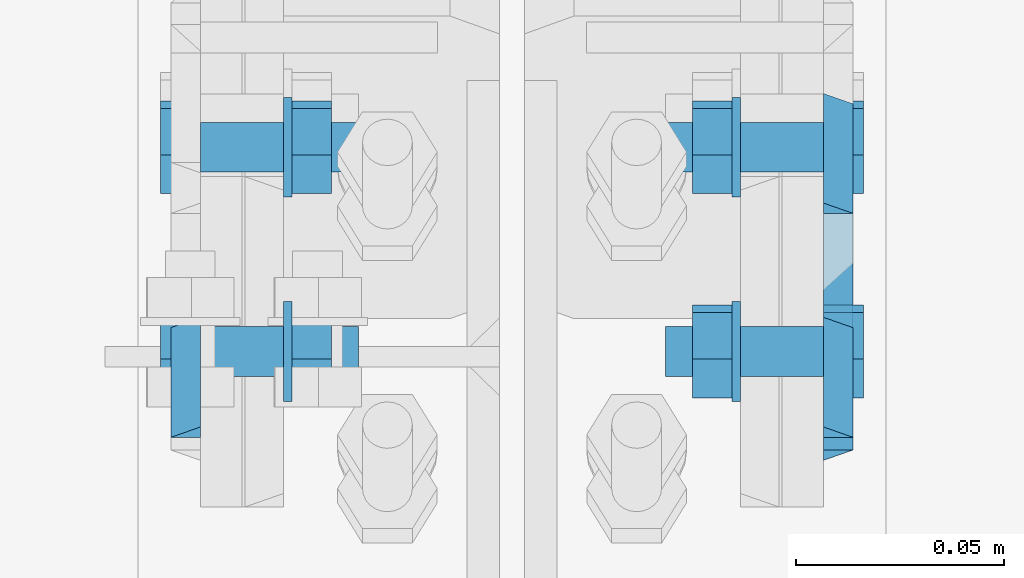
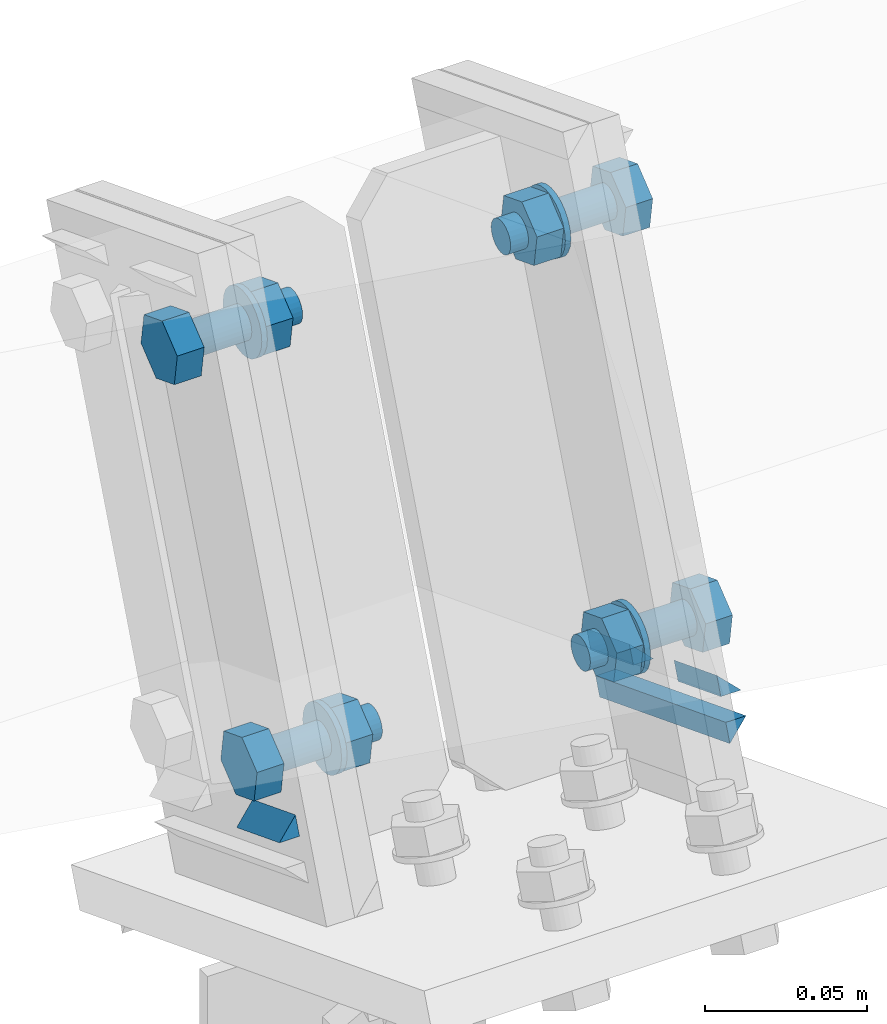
# One storey, part 45 of 72: 16 mechanical fasteners, 7 fasteners.
"""IFC4 building model written with IfcOpenShell, lengths in metres."""

import ifcopenshell
import ifcopenshell.guid

model = None  # the IFC model being written
_history = None  # IfcOwnerHistory: only IFC2X3 demands one
_inside = {}  # id of a spatial element -> (the spatial element, [elements in it])
_under = {}  # id of a project, library or spatial element -> (it, [spatial elements below it])
_declared = {}  # id of a project -> (the project, [libraries it declares])
_typed = {}  # id of a type object -> (the type object, [elements of that type])
_made_of = {}  # id of a material, layer set ... -> (it, [elements and type objects made of it])


def new_model(schema):
    """Start an empty IFC model of exactly this schema.

    Asked for "IFC4X3", IfcOpenShell would pick the latest addendum, in which some entities
    have other attributes; the version numbers below select the first issue.
    IFC2X3 requires an IfcOwnerHistory on every rooted entity: one is made here for all.
    """
    global model, _history
    if schema == "IFC4X3":
        model = ifcopenshell.file(schema_version=(4, 3, 0, 0))
    else:
        model = ifcopenshell.file(schema=schema)
    _inside.clear()
    _under.clear()
    _declared.clear()
    _typed.clear()
    _made_of.clear()
    _history = None
    if model.schema == "IFC2X3":
        org = make("IfcOrganization", Name="unknown")
        user = make(
            "IfcPersonAndOrganization",
            ThePerson=make("IfcPerson", FamilyName="unknown"),
            TheOrganization=org,
        )
        app = make(
            "IfcApplication",
            ApplicationDeveloper=org,
            Version="unknown",
            ApplicationFullName="unknown",
            ApplicationIdentifier="unknown",
        )
        _history = make(
            "IfcOwnerHistory",
            OwningUser=user,
            OwningApplication=app,
            ChangeAction="ADDED",
            CreationDate=0,
        )
    return model


def make(cls, **values):
    """One entity of the class cls with the attributes given. An attribute that is None is left unset."""
    return model.create_entity(
        cls, **{name: value for name, value in values.items() if value is not None}
    )


def rooted(cls, **values):
    """An entity with a GlobalId (a new one), such as an element, a storey or a relation."""
    return make(cls, GlobalId=ifcopenshell.guid.new(), OwnerHistory=_history, **values)


def si_unit(unit_type, name, prefix=None):
    """IfcSIUnit, for example si_unit("LENGTHUNIT", "METRE", prefix="MILLI")."""
    return make("IfcSIUnit", UnitType=unit_type, Prefix=prefix, Name=name)


def assignment(units):
    """IfcUnitAssignment: the units of a project."""
    return None if units is None else make("IfcUnitAssignment", Units=units)


def point(xyz):
    """IfcCartesianPoint."""
    return None if xyz is None else make("IfcCartesianPoint", Coordinates=xyz)


def direction(xyz):
    """IfcDirection."""
    return None if xyz is None else make("IfcDirection", DirectionRatios=xyz)


def frame(location, z_axis=None, x_axis=None):
    """IfcAxis2Placement3D, a coordinate frame: its origin and axes. An axis left out is left unset."""
    return make(
        "IfcAxis2Placement3D",
        Location=point(location),
        Axis=direction(z_axis),
        RefDirection=direction(x_axis),
    )


def origin_with_axes():
    """The frame at (0, 0, 0) with the z axis (0, 0, 1) and the x axis (1, 0, 0) written out."""
    return frame((0.0, 0.0, 0.0), z_axis=(0.0, 0.0, 1.0), x_axis=(1.0, 0.0, 0.0))


def place(relative_to, where):
    """IfcLocalPlacement: puts the frame where relative to a parent placement (None: the world)."""
    return make(
        "IfcLocalPlacement", PlacementRelTo=relative_to, RelativePlacement=where
    )


def context(
    kind, dimensions, precision=None, world=None, true_north=None, identifier=None
):
    """IfcGeometricRepresentationContext, for example the 3D "Model" context."""
    return make(
        "IfcGeometricRepresentationContext",
        ContextIdentifier=identifier,
        ContextType=kind,
        CoordinateSpaceDimension=dimensions,
        Precision=precision,
        WorldCoordinateSystem=world,
        TrueNorth=true_north,
    )


def project(units=None, contexts=None):
    """IfcProject with its units and contexts."""
    return rooted(
        "IfcProject",
        Name="project",
        RepresentationContexts=contexts,
        UnitsInContext=assignment(units),
    )


def spatial(cls, under=None, at=None, **own):
    """A site, building, storey or space (cls), placed at a placement, below another one or the project."""
    s = rooted(cls, ObjectPlacement=at, **own)
    if under is not None:
        _under.setdefault(under.id(), (under, []))[1].append(s)
    return s


def polyline(points):
    """IfcPolyline through the points."""
    return make("IfcPolyline", Points=[point(p) for p in points])


def outline(outer, holes=None, kind="AREA"):
    """IfcArbitraryClosedProfileDef: a profile drawn as a closed curve; with holes, ...WithVoids."""
    if holes is None:
        return make("IfcArbitraryClosedProfileDef", ProfileType=kind, OuterCurve=outer)
    return make(
        "IfcArbitraryProfileDefWithVoids",
        ProfileType=kind,
        OuterCurve=outer,
        InnerCurves=holes,
    )


def extrude(swept, where, along, depth):
    """IfcExtrudedAreaSolid: the profile swept, set in the frame where, extruded along a direction by depth."""
    return make(
        "IfcExtrudedAreaSolid",
        SweptArea=swept,
        Position=where,
        ExtrudedDirection=direction(along),
        Depth=depth,
    )


def shape(context_of_items, identifier, shape_type, items):
    """IfcShapeRepresentation: the items that make up one representation, for example the "Body"."""
    return make(
        "IfcShapeRepresentation",
        ContextOfItems=context_of_items,
        RepresentationIdentifier=identifier,
        RepresentationType=shape_type,
        Items=items,
    )


def made_of(thing, what):
    """Note that an element or type object is made of a material, layer set ...; save() writes the relation."""
    if what is not None:
        _made_of.setdefault(what.id(), (what, []))[1].append(thing)
    return thing


def type_object(cls, material=None, **own):
    """A type object (cls), such as IfcWallType, which elements share."""
    return made_of(rooted(cls, **own), material)


def element(
    cls,
    number,
    at=None,
    inside=None,
    cuts=None,
    type_object=None,
    material=None,
    context=None,
    identifier="Body",
    shape_type=None,
    held_by="IfcProductDefinitionShape",
    body=None,
    shapes=None,
    **own,
):
    """One element of the class cls, such as IfcWall. Its Tag is "e" and its number.

    at: its placement. inside: the storey or other place that contains it. cuts: it is an
    opening in that element (IfcRelVoidsElement). A single representation is given by context,
    identifier, shape_type and body (its items); several are given by shapes. held_by: the class
    of the entity that holds the representations. save() writes the other relations.
    """
    e = rooted(cls, Tag="e%d" % number, ObjectPlacement=at, **own)
    if body is not None:
        shapes = [shape(context, identifier, shape_type, body)]
    if shapes is not None:
        e.Representation = make(held_by, Representations=shapes)
    if inside is not None:
        _inside.setdefault(inside.id(), (inside, []))[1].append(e)
    if cuts is not None:
        rooted(
            "IfcRelVoidsElement", RelatingBuildingElement=cuts, RelatedOpeningElement=e
        )
    if type_object is not None:
        _typed.setdefault(type_object.id(), (type_object, []))[1].append(e)
    return made_of(e, material)


def aggregate(whole, parts):
    """IfcRelAggregates: a whole, such as a stair, and the parts it consists of."""
    return rooted("IfcRelAggregates", RelatingObject=whole, RelatedObjects=parts)


def save(model, path):
    """Write the relations noted so far, then the file.

    IfcRelAggregates (storeys below a building ...), IfcRelContainedInSpatialStructure (elements
    in a storey), IfcRelDefinesByType, IfcRelAssociatesMaterial and IfcRelDeclares: one each for
    every whole, place, type object, material and project.
    """
    for whole, parts in _under.values():
        aggregate(whole, parts)
    for where, things in _inside.values():
        rooted(
            "IfcRelContainedInSpatialStructure",
            RelatedElements=things,
            RelatingStructure=where,
        )
    for kind, things in _typed.values():
        rooted("IfcRelDefinesByType", RelatedObjects=things, RelatingType=kind)
    for what, things in _made_of.values():
        rooted("IfcRelAssociatesMaterial", RelatedObjects=things, RelatingMaterial=what)
    for by, libraries in _declared.values():
        rooted("IfcRelDeclares", RelatingContext=by, RelatedDefinitions=libraries)
    model.write(path)


model = new_model("IFC4")

# Units and contexts
model_context = context("Model", 3, precision=1e-05, world=origin_with_axes())
ifc_project = project(units=[si_unit("LENGTHUNIT", "METRE"), si_unit("AREAUNIT", "SQUARE_METRE"), si_unit("VOLUMEUNIT", "CUBIC_METRE"), si_unit("MASSUNIT", "GRAM", prefix="KILO"), si_unit("TIMEUNIT", "SECOND"), si_unit("PLANEANGLEUNIT", "RADIAN"), si_unit("SOLIDANGLEUNIT", "STERADIAN"), si_unit("THERMODYNAMICTEMPERATUREUNIT", "DEGREE_CELSIUS")], contexts=[model_context])

# Site, building, storey
placement_1 = place(None, origin_with_axes())
site = spatial("IfcSite", under=ifc_project, at=placement_1, Name="Italia", CompositionType="ELEMENT")
building = spatial("IfcBuilding", under=site, at=placement_1, Name="Uffici", CompositionType="ELEMENT")
storey = spatial("IfcBuildingStorey", under=building, at=placement_1, Name="Storey 0", CompositionType="ELEMENT", Elevation=0.0)

# Fastener
fastener_type_1 = type_object("IfcFastenerType", Name="Collegamento 0207_0206", PredefinedType="WELD")
placement_2 = place(placement_1, origin_with_axes())
fastener_1_placement = place(placement_2, origin_with_axes())
element("IfcFastener", 1, at=fastener_1_placement, inside=storey, type_object=fastener_type_1, Name="Collegamento 0207_0206", context=model_context, shape_type="SweptSolid", body=[
    extrude(outline(polyline([(0.0, 0.0), (0.00717354, -0.00695801), (0.0, -0.00695801), (0.0, 0.0)])), frame((3.13005, 4.79314, 5.18345), z_axis=(0.0, 0.932381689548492, -0.361475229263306), x_axis=(-1.0, 0.0, 0.0)), (0.0, 0.0, 1.0), 0.0283009),
])

# Mechanical fasteners
mechanical_fastener_type_1 = type_object("IfcMechanicalFastenerType", Name="Collegamento 0207_0206", PredefinedType="BOLT")
mechanical_fastener_1_placement = place(placement_2, origin_with_axes())
element("IfcMechanicalFastener", 2, at=mechanical_fastener_1_placement, inside=storey, type_object=mechanical_fastener_type_1, Name="Collegamento 0207_0206", NominalDiameter=0.0119998, context=model_context, shape_type="SweptSolid", body=[
    extrude(outline(polyline([(0.0, 0.0), (-0.0111885, -0.00433731), (-0.0205393, 0.00318336), (-0.0187011, 0.0150418), (-0.00751257, 0.0193796), (0.00183821, 0.0118585), (0.0, 0.0)])), frame((3.13, 4.80195, 5.18668), z_axis=(-1.0, 0.0, 0.0), x_axis=(0.0, -1.0, 0.0)), (0.0, 0.0, 1.0), 0.00959992),
])
mechanical_fastener_type_2 = type_object("IfcMechanicalFastenerType", Name="Collegamento 0207_0206", PredefinedType="BOLT")
mechanical_fastener_2_placement = place(placement_2, origin_with_axes())
element("IfcMechanicalFastener", 3, at=mechanical_fastener_2_placement, inside=storey, type_object=mechanical_fastener_type_2, Name="Collegamento 0207_0206", NominalDiameter=0.012, context=model_context, shape_type="SweptSolid", body=[
    extrude(outline(polyline([(0.0, 0.0), (-0.000204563, -0.00155306), (-0.000803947, -0.00299978), (-0.00175762, -0.00424242), (-0.00300026, -0.00519609), (-0.00444698, -0.00579548), (-0.00600004, -0.00600004), (-0.0075531, -0.00579548), (-0.00899982, -0.00519609), (-0.0102425, -0.00424242), (-0.0111961, -0.00299978), (-0.0117955, -0.00155306), (-0.0120001, 0.0), (-0.0117955, 0.00155306), (-0.0111961, 0.00299978), (-0.0102425, 0.00424242), (-0.00899982, 0.00519609), (-0.0075531, 0.00579548), (-0.00600004, 0.00600004), (-0.00444698, 0.00579548), (-0.00300026, 0.00519609), (-0.00175762, 0.00424242), (-0.000803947, 0.00299978), (-0.000204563, 0.00155306), (0.0, 0.0)])), frame((3.168, 4.8053, 5.1942), z_axis=(-1.0, 0.0, 0.0), x_axis=(0.0, -1.0, 0.0)), (0.0, 0.0, 1.0), 0.0379999),
])
mechanical_fastener_type_3 = type_object("IfcMechanicalFastenerType", Name="Collegamento 0207_0206", PredefinedType="BOLT")
mechanical_fastener_3_placement = place(placement_2, origin_with_axes())
element("IfcMechanicalFastener", 4, at=mechanical_fastener_3_placement, inside=storey, type_object=mechanical_fastener_type_3, Name="Collegamento 0207_0206", NominalDiameter=0.0119998, context=model_context, shape_type="SweptSolid", body=[
    extrude(outline(polyline([(0.0, 0.0), (-0.0111885, -0.00433731), (-0.0205393, 0.00318336), (-0.0187011, 0.0150418), (-0.00751257, 0.0193796), (0.00183821, 0.0118585), (0.0, 0.0)])), frame((3.1616, 4.80195, 5.18668), z_axis=(-1.0, 0.0, 0.0), x_axis=(0.0, -1.0, 0.0)), (0.0, 0.0, 1.0), 0.00959992),
])
mechanical_fastener_type_4 = type_object("IfcMechanicalFastenerType", Name="Collegamento 0207_0206", PredefinedType="BOLT")
mechanical_fastener_4_placement = place(placement_2, origin_with_axes())
element("IfcMechanicalFastener", 5, at=mechanical_fastener_4_placement, inside=storey, type_object=mechanical_fastener_type_4, Name="Collegamento 0207_0206", NominalDiameter=0.024, context=model_context, shape_type="SweptSolid", body=[
    extrude(outline(polyline([(0.0, 0.0), (-0.000409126, -0.00310564), (-0.00160789, -0.00600004), (-0.00351477, -0.00848532), (-0.00600004, -0.0103922), (-0.00889444, -0.011591), (-0.0120001, -0.0120001), (-0.0151057, -0.011591), (-0.0180001, -0.0103922), (-0.0204854, -0.00848532), (-0.0223923, -0.00600004), (-0.023591, -0.00310564), (-0.0240002, 0.0), (-0.023591, 0.00310564), (-0.0223923, 0.00600004), (-0.0204854, 0.00848532), (-0.0180001, 0.0103922), (-0.0151057, 0.011591), (-0.0120001, 0.0120001), (-0.00889444, 0.011591), (-0.00600004, 0.0103922), (-0.00351477, 0.00848532), (-0.00160789, 0.00600004), (-0.000409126, 0.00310564), (0.0, 0.0)])), frame((3.152, 4.7993, 5.1942), z_axis=(-1.0, 0.0, 0.0), x_axis=(0.0, -1.0, 0.0)), (0.0, 0.0, 1.0), 0.00200009),
])
mechanical_fastener_type_5 = type_object("IfcMechanicalFastenerType", Name="Collegamento 0207_0206", PredefinedType="BOLT")
mechanical_fastener_5_placement = place(placement_2, origin_with_axes())
element("IfcMechanicalFastener", 6, at=mechanical_fastener_5_placement, inside=storey, type_object=mechanical_fastener_type_5, Name="Collegamento 0207_0206", NominalDiameter=0.0119998, context=model_context, shape_type="SweptSolid", body=[
    extrude(outline(polyline([(0.0, 0.0), (-0.0111885, -0.00433731), (-0.0205393, 0.00318336), (-0.0187016, 0.0150418), (-0.00751305, 0.0193791), (0.00183773, 0.0118585), (0.0, 0.0)])), frame((3.13, 4.85111, 5.31349), z_axis=(-1.0, 0.0, 0.0), x_axis=(0.0, -1.0, 0.0)), (0.0, 0.0, 1.0), 0.00959992),
])
mechanical_fastener_type_6 = type_object("IfcMechanicalFastenerType", Name="Collegamento 0207_0206", PredefinedType="BOLT")
mechanical_fastener_6_placement = place(placement_2, origin_with_axes())
element("IfcMechanicalFastener", 7, at=mechanical_fastener_6_placement, inside=storey, type_object=mechanical_fastener_type_6, Name="Collegamento 0207_0206", NominalDiameter=0.012, context=model_context, shape_type="SweptSolid", body=[
    extrude(outline(polyline([(0.0, 0.0), (-0.000204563, -0.00155306), (-0.000803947, -0.00299978), (-0.00175762, -0.00424242), (-0.00300026, -0.00519609), (-0.00444698, -0.00579548), (-0.00600004, -0.00600004), (-0.0075531, -0.00579548), (-0.00899982, -0.00519609), (-0.0102425, -0.00424242), (-0.0111961, -0.00299978), (-0.0117955, -0.00155306), (-0.0120001, 0.0), (-0.0117955, 0.00155306), (-0.0111961, 0.00299978), (-0.0102425, 0.00424242), (-0.00899982, 0.00519609), (-0.0075531, 0.00579548), (-0.00600004, 0.00600004), (-0.00444698, 0.00579548), (-0.00300026, 0.00519609), (-0.00175762, 0.00424242), (-0.000803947, 0.00299978), (-0.000204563, 0.00155306), (0.0, 0.0)])), frame((3.168, 4.85446, 5.32101), z_axis=(-1.0, 0.0, 0.0), x_axis=(0.0, -1.0, 0.0)), (0.0, 0.0, 1.0), 0.0379999),
])
mechanical_fastener_type_7 = type_object("IfcMechanicalFastenerType", Name="Collegamento 0207_0206", PredefinedType="BOLT")
mechanical_fastener_7_placement = place(placement_2, origin_with_axes())
element("IfcMechanicalFastener", 8, at=mechanical_fastener_7_placement, inside=storey, type_object=mechanical_fastener_type_7, Name="Collegamento 0207_0206", NominalDiameter=0.0119998, context=model_context, shape_type="SweptSolid", body=[
    extrude(outline(polyline([(0.0, 0.0), (-0.0111885, -0.00433731), (-0.0205393, 0.00318336), (-0.0187016, 0.0150418), (-0.00751305, 0.0193791), (0.00183773, 0.0118585), (0.0, 0.0)])), frame((3.1616, 4.85111, 5.31349), z_axis=(-1.0, 0.0, 0.0), x_axis=(0.0, -1.0, 0.0)), (0.0, 0.0, 1.0), 0.00959992),
])
mechanical_fastener_type_8 = type_object("IfcMechanicalFastenerType", Name="Collegamento 0207_0206", PredefinedType="BOLT")
mechanical_fastener_8_placement = place(placement_2, origin_with_axes())
element("IfcMechanicalFastener", 9, at=mechanical_fastener_8_placement, inside=storey, type_object=mechanical_fastener_type_8, Name="Collegamento 0207_0206", NominalDiameter=0.024, context=model_context, shape_type="SweptSolid", body=[
    extrude(outline(polyline([(0.0, 0.0), (-0.000409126, -0.00310564), (-0.00160789, -0.00600004), (-0.00351477, -0.00848532), (-0.00600004, -0.0103922), (-0.00889444, -0.011591), (-0.0120001, -0.0120001), (-0.0151057, -0.011591), (-0.0180001, -0.0103922), (-0.0204854, -0.00848532), (-0.0223923, -0.00600004), (-0.023591, -0.00310564), (-0.0240002, 0.0), (-0.023591, 0.00310564), (-0.0223923, 0.00600004), (-0.0204854, 0.00848532), (-0.0180001, 0.0103922), (-0.0151057, 0.011591), (-0.0120001, 0.0120001), (-0.00889444, 0.011591), (-0.00600004, 0.0103922), (-0.00351477, 0.00848532), (-0.00160789, 0.00600004), (-0.000409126, 0.00310564), (0.0, 0.0)])), frame((3.152, 4.84846, 5.32101), z_axis=(-1.0, 0.0, 0.0), x_axis=(0.0, -1.0, 0.0)), (0.0, 0.0, 1.0), 0.00200009),
])

# Fasteners
fastener_type_2 = type_object("IfcFastenerType", Name="Collegamento 0207_0208", PredefinedType="WELD")
fastener_2_placement = place(placement_2, origin_with_axes())
element("IfcFastener", 10, at=fastener_2_placement, inside=storey, type_object=fastener_type_2, Name="Collegamento 0207_0208", context=model_context, shape_type="SweptSolid", body=[
    extrude(outline(polyline([(0.0, 0.0), (0.00717354, -0.00695753), (0.0, -0.00695753), (0.0, 0.0)])), frame((3.27995, 4.87342, 5.15233), z_axis=(0.0, -0.932390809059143, 0.361451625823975), x_axis=(1.0, 0.0, 0.0)), (0.0, 0.0, 1.0), 0.0283001),
])
fastener_type_3 = type_object("IfcFastenerType", Name="Collegamento 0207_0208", PredefinedType="WELD")
fastener_3_placement = place(placement_2, origin_with_axes())
element("IfcFastener", 11, at=fastener_3_placement, inside=storey, type_object=fastener_type_3, Name="Collegamento 0207_0208", context=model_context, shape_type="SweptSolid", body=[
    extrude(outline(polyline([(0.0, 0.0), (-0.00717354, 0.00695848), (0.0, 0.00695848), (0.0, 0.0)])), frame((3.27995, 4.78507, 5.16264), z_axis=(0.0, 0.932385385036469, -0.361465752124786), x_axis=(-1.0, 0.0, 0.0)), (0.0, 0.0, 1.0), 0.0861),
])
fastener_type_4 = type_object("IfcFastenerType", Name="Collegamento 0207_0208", PredefinedType="WELD")
fastener_4_placement = place(placement_2, origin_with_axes())
element("IfcFastener", 12, at=fastener_4_placement, inside=storey, type_object=fastener_type_4, Name="Collegamento 0207_0208", context=model_context, shape_type="SweptSolid", body=[
    extrude(outline(polyline([(0.0, 0.0), (0.00717354, -0.00695801), (0.0, -0.00695801), (0.0, 0.0)])), frame((3.27995, 4.81952, 5.17322), z_axis=(0.0, -0.932381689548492, 0.361475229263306), x_axis=(1.0, 0.0, 0.0)), (0.0, 0.0, 1.0), 0.0283009),
])
fastener_type_5 = type_object("IfcFastenerType", Name="Collegamento 0207_0208", PredefinedType="WELD")
fastener_5_placement = place(placement_2, origin_with_axes())
element("IfcFastener", 13, at=fastener_5_placement, inside=storey, type_object=fastener_type_5, Name="Collegamento 0207_0208", context=model_context, shape_type="SweptSolid", body=[
    extrude(outline(polyline([(0.0, 0.0), (0.00717354, -0.00695753), (0.0, -0.00695753), (0.0, 0.0)])), frame((3.27995, 4.87342, 5.15233), z_axis=(0.0, -0.932390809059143, 0.361451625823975), x_axis=(1.0, 0.0, 0.0)), (0.0, 0.0, 1.0), 0.0283001),
])
fastener_type_6 = type_object("IfcFastenerType", Name="Collegamento 0207_0208", PredefinedType="WELD")
fastener_6_placement = place(placement_2, origin_with_axes())
element("IfcFastener", 14, at=fastener_6_placement, inside=storey, type_object=fastener_type_6, Name="Collegamento 0207_0208", context=model_context, shape_type="SweptSolid", body=[
    extrude(outline(polyline([(0.0, 0.0), (-0.00717354, 0.00695848), (0.0, 0.00695848), (0.0, 0.0)])), frame((3.27995, 4.78507, 5.16264), z_axis=(0.0, 0.932385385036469, -0.361465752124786), x_axis=(-1.0, 0.0, 0.0)), (0.0, 0.0, 1.0), 0.0861),
])
fastener_type_7 = type_object("IfcFastenerType", Name="Collegamento 0207_0208", PredefinedType="WELD")
fastener_7_placement = place(placement_2, origin_with_axes())
element("IfcFastener", 15, at=fastener_7_placement, inside=storey, type_object=fastener_type_7, Name="Collegamento 0207_0208", context=model_context, shape_type="SweptSolid", body=[
    extrude(outline(polyline([(0.0, 0.0), (0.00717354, -0.00695801), (0.0, -0.00695801), (0.0, 0.0)])), frame((3.27995, 4.81952, 5.17322), z_axis=(0.0, -0.932381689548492, 0.361475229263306), x_axis=(1.0, 0.0, 0.0)), (0.0, 0.0, 1.0), 0.0283009),
])

# Mechanical fasteners
mechanical_fastener_type_9 = type_object("IfcMechanicalFastenerType", Name="Collegamento 0207_0208", PredefinedType="BOLT")
mechanical_fastener_9_placement = place(placement_2, origin_with_axes())
element("IfcMechanicalFastener", 16, at=mechanical_fastener_9_placement, inside=storey, type_object=mechanical_fastener_type_9, Name="Collegamento 0207_0208", NominalDiameter=0.0119998, context=model_context, shape_type="SweptSolid", body=[
    extrude(outline(polyline([(0.0, 0.0), (-0.0111885, 0.00433731), (-0.0130267, 0.0161958), (-0.00367594, 0.0237169), (0.00751257, 0.0193791), (0.00935078, 0.00752068), (0.0, 0.0)])), frame((3.28, 4.81314, 5.18234), z_axis=(1.0, 0.0, 0.0), x_axis=(0.0, 1.0, 0.0)), (0.0, 0.0, 1.0), 0.00959992),
])
mechanical_fastener_type_10 = type_object("IfcMechanicalFastenerType", Name="Collegamento 0207_0208", PredefinedType="BOLT")
mechanical_fastener_10_placement = place(placement_2, origin_with_axes())
element("IfcMechanicalFastener", 17, at=mechanical_fastener_10_placement, inside=storey, type_object=mechanical_fastener_type_10, Name="Collegamento 0207_0208", NominalDiameter=0.012, context=model_context, shape_type="SweptSolid", body=[
    extrude(outline(polyline([(0.0, 0.0), (-0.000204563, -0.00155306), (-0.000803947, -0.00299978), (-0.00175762, -0.00424242), (-0.00300026, -0.00519609), (-0.00444698, -0.00579548), (-0.00600004, -0.00600004), (-0.0075531, -0.00579548), (-0.00899982, -0.00519609), (-0.0102425, -0.00424242), (-0.0111961, -0.00299978), (-0.0117955, -0.00155306), (-0.0120001, 0.0), (-0.0117955, 0.00155306), (-0.0111961, 0.00299978), (-0.0102425, 0.00424242), (-0.00899982, 0.00519609), (-0.0075531, 0.00579548), (-0.00600004, 0.00600004), (-0.00444698, 0.00579548), (-0.00300026, 0.00519609), (-0.00175762, 0.00424242), (-0.000803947, 0.00299978), (-0.000204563, 0.00155306), (0.0, 0.0)])), frame((3.242, 4.8173, 5.1942), z_axis=(1.0, 0.0, 0.0), x_axis=(0.0, 1.0, 0.0)), (0.0, 0.0, 1.0), 0.0379999),
])
mechanical_fastener_type_11 = type_object("IfcMechanicalFastenerType", Name="Collegamento 0207_0208", PredefinedType="BOLT")
mechanical_fastener_11_placement = place(placement_2, origin_with_axes())
element("IfcMechanicalFastener", 18, at=mechanical_fastener_11_placement, inside=storey, type_object=mechanical_fastener_type_11, Name="Collegamento 0207_0208", NominalDiameter=0.0119998, context=model_context, shape_type="SweptSolid", body=[
    extrude(outline(polyline([(0.0, 0.0), (-0.0111885, 0.00433731), (-0.0130267, 0.0161958), (-0.00367594, 0.0237169), (0.00751257, 0.0193791), (0.00935078, 0.00752068), (0.0, 0.0)])), frame((3.2484, 4.81314, 5.18234), z_axis=(1.0, 0.0, 0.0), x_axis=(0.0, 1.0, 0.0)), (0.0, 0.0, 1.0), 0.00959992),
])
mechanical_fastener_type_12 = type_object("IfcMechanicalFastenerType", Name="Collegamento 0207_0208", PredefinedType="BOLT")
mechanical_fastener_12_placement = place(placement_2, origin_with_axes())
element("IfcMechanicalFastener", 19, at=mechanical_fastener_12_placement, inside=storey, type_object=mechanical_fastener_type_12, Name="Collegamento 0207_0208", NominalDiameter=0.024, context=model_context, shape_type="SweptSolid", body=[
    extrude(outline(polyline([(0.0, 0.0), (-0.000409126, -0.00310564), (-0.00160789, -0.00600004), (-0.00351477, -0.00848532), (-0.00600004, -0.0103922), (-0.00889444, -0.011591), (-0.0120001, -0.0120001), (-0.0151057, -0.011591), (-0.0180001, -0.0103922), (-0.0204854, -0.00848532), (-0.0223923, -0.00600004), (-0.023591, -0.00310564), (-0.0240002, 0.0), (-0.023591, 0.00310564), (-0.0223923, 0.00600004), (-0.0204854, 0.00848532), (-0.0180001, 0.0103922), (-0.0151057, 0.011591), (-0.0120001, 0.0120001), (-0.00889444, 0.011591), (-0.00600004, 0.0103922), (-0.00351477, 0.00848532), (-0.00160789, 0.00600004), (-0.000409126, 0.00310564), (0.0, 0.0)])), frame((3.258, 4.8233, 5.1942), z_axis=(1.0, 0.0, 0.0), x_axis=(0.0, 1.0, 0.0)), (0.0, 0.0, 1.0), 0.00200009),
])
mechanical_fastener_type_13 = type_object("IfcMechanicalFastenerType", Name="Collegamento 0207_0208", PredefinedType="BOLT")
mechanical_fastener_13_placement = place(placement_2, origin_with_axes())
element("IfcMechanicalFastener", 20, at=mechanical_fastener_13_placement, inside=storey, type_object=mechanical_fastener_type_13, Name="Collegamento 0207_0208", NominalDiameter=0.0119998, context=model_context, shape_type="SweptSolid", body=[
    extrude(outline(polyline([(0.0, 0.0), (-0.0111885, 0.00433731), (-0.0130262, 0.0161958), (-0.00367546, 0.0237164), (0.00751305, 0.0193791), (0.00935078, 0.00752068), (0.0, 0.0)])), frame((3.28, 4.8623, 5.30915), z_axis=(1.0, 0.0, 0.0), x_axis=(0.0, 1.0, 0.0)), (0.0, 0.0, 1.0), 0.00959992),
])
mechanical_fastener_type_14 = type_object("IfcMechanicalFastenerType", Name="Collegamento 0207_0208", PredefinedType="BOLT")
mechanical_fastener_14_placement = place(placement_2, origin_with_axes())
element("IfcMechanicalFastener", 21, at=mechanical_fastener_14_placement, inside=storey, type_object=mechanical_fastener_type_14, Name="Collegamento 0207_0208", NominalDiameter=0.012, context=model_context, shape_type="SweptSolid", body=[
    extrude(outline(polyline([(0.0, 0.0), (-0.000204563, -0.00155306), (-0.000803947, -0.00299978), (-0.00175762, -0.00424242), (-0.00300026, -0.00519609), (-0.00444698, -0.00579548), (-0.00600004, -0.00600004), (-0.0075531, -0.00579548), (-0.00899982, -0.00519609), (-0.0102425, -0.00424242), (-0.0111961, -0.00299978), (-0.0117955, -0.00155306), (-0.0120001, 0.0), (-0.0117955, 0.00155306), (-0.0111961, 0.00299978), (-0.0102425, 0.00424242), (-0.00899982, 0.00519609), (-0.0075531, 0.00579548), (-0.00600004, 0.00600004), (-0.00444698, 0.00579548), (-0.00300026, 0.00519609), (-0.00175762, 0.00424242), (-0.000803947, 0.00299978), (-0.000204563, 0.00155306), (0.0, 0.0)])), frame((3.242, 4.86646, 5.32101), z_axis=(1.0, 0.0, 0.0), x_axis=(0.0, 1.0, 0.0)), (0.0, 0.0, 1.0), 0.0379999),
])
mechanical_fastener_type_15 = type_object("IfcMechanicalFastenerType", Name="Collegamento 0207_0208", PredefinedType="BOLT")
mechanical_fastener_15_placement = place(placement_2, origin_with_axes())
element("IfcMechanicalFastener", 22, at=mechanical_fastener_15_placement, inside=storey, type_object=mechanical_fastener_type_15, Name="Collegamento 0207_0208", NominalDiameter=0.0119998, context=model_context, shape_type="SweptSolid", body=[
    extrude(outline(polyline([(0.0, 0.0), (-0.0111885, 0.00433731), (-0.0130262, 0.0161958), (-0.00367546, 0.0237164), (0.00751305, 0.0193791), (0.00935078, 0.00752068), (0.0, 0.0)])), frame((3.2484, 4.8623, 5.30915), z_axis=(1.0, 0.0, 0.0), x_axis=(0.0, 1.0, 0.0)), (0.0, 0.0, 1.0), 0.00959992),
])
mechanical_fastener_type_16 = type_object("IfcMechanicalFastenerType", Name="Collegamento 0207_0208", PredefinedType="BOLT")
mechanical_fastener_16_placement = place(placement_2, origin_with_axes())
element("IfcMechanicalFastener", 23, at=mechanical_fastener_16_placement, inside=storey, type_object=mechanical_fastener_type_16, Name="Collegamento 0207_0208", NominalDiameter=0.024, context=model_context, shape_type="SweptSolid", body=[
    extrude(outline(polyline([(0.0, 0.0), (-0.000409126, -0.00310564), (-0.00160789, -0.00600004), (-0.00351477, -0.00848532), (-0.00600004, -0.0103922), (-0.00889444, -0.011591), (-0.0120001, -0.0120001), (-0.0151057, -0.011591), (-0.0180001, -0.0103922), (-0.0204854, -0.00848532), (-0.0223923, -0.00600004), (-0.023591, -0.00310564), (-0.0240002, 0.0), (-0.023591, 0.00310564), (-0.0223923, 0.00600004), (-0.0204854, 0.00848532), (-0.0180001, 0.0103922), (-0.0151057, 0.011591), (-0.0120001, 0.0120001), (-0.00889444, 0.011591), (-0.00600004, 0.0103922), (-0.00351477, 0.00848532), (-0.00160789, 0.00600004), (-0.000409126, 0.00310564), (0.0, 0.0)])), frame((3.258, 4.87246, 5.32101), z_axis=(1.0, 0.0, 0.0), x_axis=(0.0, 1.0, 0.0)), (0.0, 0.0, 1.0), 0.00200009),
])

save(model, "model.ifc")
